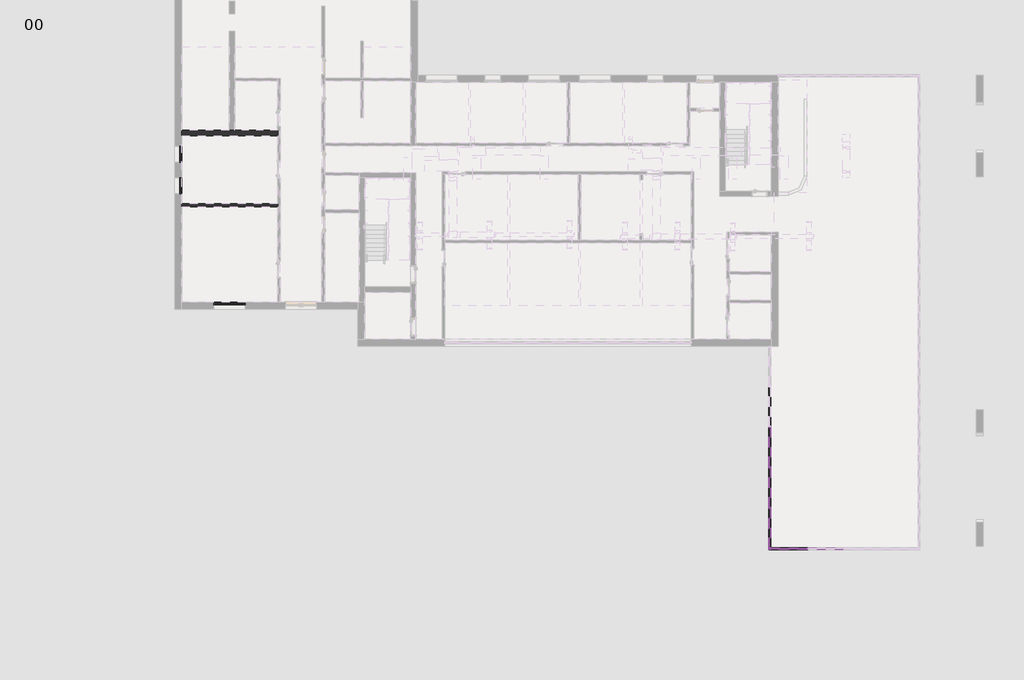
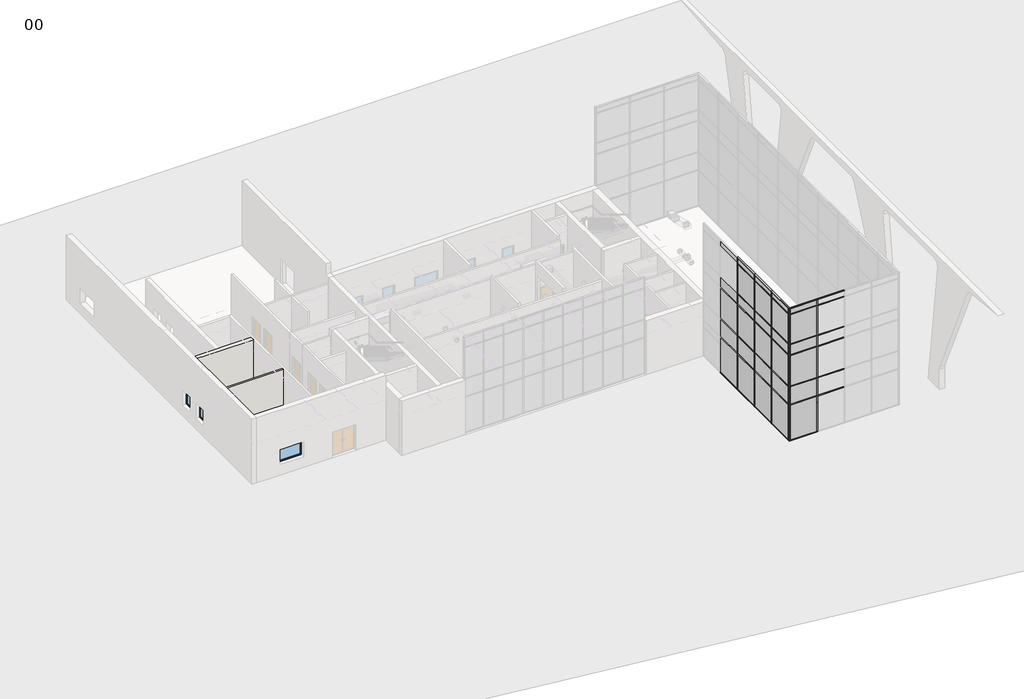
# One storey, part 1 of 12: 77 members, 29 plates, 3 windows, 2 walls.
"""IFC4 building model written with IfcOpenShell, lengths in millimetres."""

from ifc_helpers import new_model, si_unit, origin, origin_with_axes, place, context, project, spatial, polyline, outline, extrude, faceted_brep, transform, mapped, element, save
from components import rectangular_mullion_curtainwallmullion_rectangular_generic_8ae0e668, rectangular_mullion_curtainwallmullion_rectangular_generic_15c16c91, rectangular_mullion_curtainwallmullion_rectangular_generic_08fbcc14, rectangular_mullion_curtainwallmullion_rectangular_generic_83e55909, rectangular_mullion_curtainwallmullion_rectangular_generic_d5294c93, rectangular_mullion_curtainwallmullion_rectangular_generic_779ca808, rectangular_mullion_curtainwallmullion_rectangular_generic_5675a122, rectangular_mullion_curtainwallmullion_rectangular_generic_397fb318, rectangular_mullion_curtainwallmullion_rectangular_generic_f1446028, rectangular_mullion_curtainwallmullion_rectangular_generic_0700f4c6, rectangular_mullion_curtainwallmullion_rectangular_generic_cb270087, rectangular_mullion_curtainwallmullion_rectangular_generic_974284e1, rectangular_mullion_curtainwallmullion_rectangular_generic_25199054, rectangular_mullion_curtainwallmullion_rectangular_generic_3fcc00f2, rectangular_mullion_curtainwallmullion_rectangular_generic_766165b3, rectangular_mullion_curtainwallmullion_rectangular_generic_b870b509, rectangular_mullion_curtainwallmullion_rectangular_generic_654ac675, rectangular_mullion_curtainwallmullion_rectangular_generic_e7c47ca9, rectangular_mullion_curtainwallmullion_rectangular_generic_c0600e94, rectangular_mullion_curtainwallmullion_rectangular_generic_3bdb59d8, rectangular_mullion_curtainwallmullion_rectangular_generic_aa8766cf, rectangular_mullion_curtainwallmullion_rectangular_generic_a50df724, rectangular_mullion_curtainwallmullion_rectangular_generic_c640f651, rectangular_mullion_curtainwallmullion_rectangular_generic_afb0b622, rectangular_mullion_curtainwallmullion_rectangular_generic_b2d53351, rectangular_mullion_curtainwallmullion_rectangular_generic_d47b8a9d, system_panel_curtainpanel_glazed_9120b6e5, system_panel_curtainpanel_glazed_c42a0534, system_panel_curtainpanel_glazed_a0842033, system_panel_curtainpanel_glazed_19b159b3, system_panel_curtainpanel_glazed_8eb9798f, system_panel_curtainpanel_glazed_c6a84083, system_panel_curtainpanel_solid_62146879, system_panel_curtainpanel_solid_bd7018df, system_panel_curtainpanel_solid_ebe6707a, system_panel_curtainpanel_solid_ff987cd1, system_panel_curtainpanel_solid_09149663, system_panel_curtainpanel_solid_f2f4bc37, windows_concept_plain_sgl_1810x1210mm_7f7241d7, windows_concept_plain_sgl_910x1210mm_ef0b7ad2

model = new_model("IFC4")

# Units and contexts
model_context = context("Model", 3, world=origin())
ifc_project = project(units=[si_unit("LENGTHUNIT", "METRE", prefix="MILLI")], contexts=[model_context])

# Site, building, storey
site = spatial("IfcSite", under=ifc_project)
building = spatial("IfcBuilding", under=site)
storey = spatial("IfcBuildingStorey", under=building, Name="00", Elevation=0.0)

# Members
placement = place(None, origin())
rectangular_mullion_curtainwallmullion_rectangular_generic_shape = rectangular_mullion_curtainwallmullion_rectangular_generic_8ae0e668(model_context)
element("IfcMember", 1, ObjectType="Rectangular Mullion : CurtainWallMullion_Rectangular_Generic", at=placement, inside=storey, context=model_context, shape_type="MappedRepresentation", body=[
    mapped(rectangular_mullion_curtainwallmullion_rectangular_generic_shape, transform((445668.3206883, -406013.8026384, 10486.7), x_axis=(0.0, 1.0, 0.0), y_axis=(1.0, 0.0, 0.0), z_axis=(0.0, 0.0, -1.0))),
])
element("IfcMember", 2, ObjectType="Rectangular Mullion : CurtainWallMullion_Rectangular_Generic", at=placement, inside=storey, context=model_context, shape_type="MappedRepresentation", body=[
    mapped(rectangular_mullion_curtainwallmullion_rectangular_generic_shape, transform((445668.3206883, -403686.6026385, 10486.7), x_axis=(0.0, 1.0, 0.0), y_axis=(1.0, 0.0, 0.0), z_axis=(0.0, 0.0, -1.0))),
])
element("IfcMember", 3, ObjectType="Rectangular Mullion : CurtainWallMullion_Rectangular_Generic", at=placement, inside=storey, context=model_context, shape_type="MappedRepresentation", body=[
    mapped(rectangular_mullion_curtainwallmullion_rectangular_generic_shape, transform((445668.3206883, -401359.4026387, 10486.7), x_axis=(0.0, 1.0, 0.0), y_axis=(1.0, 0.0, 0.0), z_axis=(0.0, 0.0, -1.0))),
])
element("IfcMember", 4, ObjectType="Rectangular Mullion : CurtainWallMullion_Rectangular_Generic", at=placement, inside=storey, context=model_context, shape_type="MappedRepresentation", body=[
    mapped(rectangular_mullion_curtainwallmullion_rectangular_generic_shape, transform((447825.3206885, -408366.0026386, 10486.7), x_axis=(-1.0, 0.0, 0.0), y_axis=(0.0, 1.0, 0.0), z_axis=(0.0, 0.0, -1.0))),
])
rectangular_mullion_curtainwallmullion_rectangular_generic_2_shape = rectangular_mullion_curtainwallmullion_rectangular_generic_15c16c91(model_context)
element("IfcMember", 5, ObjectType="Rectangular Mullion : CurtainWallMullion_Rectangular_Generic", at=placement, inside=storey, context=model_context, shape_type="MappedRepresentation", body=[
    mapped(rectangular_mullion_curtainwallmullion_rectangular_generic_2_shape, transform((445668.3206883, -408366.0026386, 10486.7), x_axis=(-1.0, 0.0, 0.0), y_axis=(0.0, 1.0, 0.0), z_axis=(0.0, 0.0, -1.0))),
])
element("IfcMember", 6, ObjectType="Rectangular Mullion : CurtainWallMullion_Rectangular_Generic", at=placement, inside=storey, context=model_context, shape_type="MappedRepresentation", body=[
    mapped(rectangular_mullion_curtainwallmullion_rectangular_generic_2_shape, transform((445668.3206883, -408366.0026386, 10950.0), x_axis=(0.0, -1.0, 0.0), y_axis=(1.0, 0.0, 0.0), z_axis=(0.0, 0.0, 1.0))),
])
rectangular_mullion_curtainwallmullion_rectangular_generic_3_shape = rectangular_mullion_curtainwallmullion_rectangular_generic_08fbcc14(model_context)
element("IfcMember", 7, ObjectType="Rectangular Mullion : CurtainWallMullion_Rectangular_Generic", at=placement, inside=storey, context=model_context, shape_type="MappedRepresentation", body=[
    mapped(rectangular_mullion_curtainwallmullion_rectangular_generic_3_shape, transform((445668.3206883, -406013.8026384, 8000.0), x_axis=(0.0, 1.0, 0.0), y_axis=(1.0, 0.0, 0.0), z_axis=(0.0, 0.0, -1.0))),
])
element("IfcMember", 8, ObjectType="Rectangular Mullion : CurtainWallMullion_Rectangular_Generic", at=placement, inside=storey, context=model_context, shape_type="MappedRepresentation", body=[
    mapped(rectangular_mullion_curtainwallmullion_rectangular_generic_3_shape, transform((445668.3206883, -403686.6026385, 8000.0), x_axis=(0.0, 1.0, 0.0), y_axis=(1.0, 0.0, 0.0), z_axis=(0.0, 0.0, -1.0))),
])
element("IfcMember", 9, ObjectType="Rectangular Mullion : CurtainWallMullion_Rectangular_Generic", at=placement, inside=storey, context=model_context, shape_type="MappedRepresentation", body=[
    mapped(rectangular_mullion_curtainwallmullion_rectangular_generic_3_shape, transform((445668.3206883, -401359.4026387, 8000.0), x_axis=(0.0, 1.0, 0.0), y_axis=(1.0, 0.0, 0.0), z_axis=(0.0, 0.0, -1.0))),
])
element("IfcMember", 10, ObjectType="Rectangular Mullion : CurtainWallMullion_Rectangular_Generic", at=placement, inside=storey, context=model_context, shape_type="MappedRepresentation", body=[
    mapped(rectangular_mullion_curtainwallmullion_rectangular_generic_3_shape, transform((447825.3206885, -408366.0026386, 8000.0), x_axis=(-1.0, 0.0, 0.0), y_axis=(0.0, 1.0, 0.0), z_axis=(0.0, 0.0, -1.0))),
])
rectangular_mullion_curtainwallmullion_rectangular_generic_4_shape = rectangular_mullion_curtainwallmullion_rectangular_generic_83e55909(model_context)
element("IfcMember", 11, ObjectType="Rectangular Mullion : CurtainWallMullion_Rectangular_Generic", at=placement, inside=storey, context=model_context, shape_type="MappedRepresentation", body=[
    mapped(rectangular_mullion_curtainwallmullion_rectangular_generic_4_shape, transform((445668.3206883, -408366.0026386, 10486.7), x_axis=(0.0, -1.0, 0.0), y_axis=(1.0, 0.0, 0.0), z_axis=(0.0, 0.0, 1.0))),
])
element("IfcMember", 12, ObjectType="Rectangular Mullion : CurtainWallMullion_Rectangular_Generic", at=placement, inside=storey, context=model_context, shape_type="MappedRepresentation", body=[
    mapped(rectangular_mullion_curtainwallmullion_rectangular_generic_4_shape, transform((445668.3206883, -408366.0026386, 8000.0), x_axis=(-1.0, 0.0, 0.0), y_axis=(0.0, 1.0, 0.0), z_axis=(0.0, 0.0, -1.0))),
])
rectangular_mullion_curtainwallmullion_rectangular_generic_5_shape = rectangular_mullion_curtainwallmullion_rectangular_generic_d5294c93(model_context)
element("IfcMember", 13, ObjectType="Rectangular Mullion : CurtainWallMullion_Rectangular_Generic", at=placement, inside=storey, context=model_context, shape_type="MappedRepresentation", body=[
    mapped(rectangular_mullion_curtainwallmullion_rectangular_generic_5_shape, transform((447825.3206885, -408366.0026386, 50.0), x_axis=(-1.0, 0.0, 0.0), y_axis=(0.0, 1.0, 0.0), z_axis=(0.0, 0.0, -1.0))),
])
rectangular_mullion_curtainwallmullion_rectangular_generic_6_shape = rectangular_mullion_curtainwallmullion_rectangular_generic_779ca808(model_context)
element("IfcMember", 14, ObjectType="Rectangular Mullion : CurtainWallMullion_Rectangular_Generic", at=placement, inside=storey, context=model_context, shape_type="MappedRepresentation", body=[
    mapped(rectangular_mullion_curtainwallmullion_rectangular_generic_6_shape, transform((445668.3206883, -408366.0026386, 50.0), x_axis=(-1.0, 0.0, 0.0), y_axis=(0.0, 1.0, 0.0), z_axis=(0.0, 0.0, -1.0))),
])
rectangular_mullion_curtainwallmullion_rectangular_generic_7_shape = rectangular_mullion_curtainwallmullion_rectangular_generic_5675a122(model_context)
element("IfcMember", 15, ObjectType="Rectangular Mullion : CurtainWallMullion_Rectangular_Generic", at=placement, inside=storey, context=model_context, shape_type="MappedRepresentation", body=[
    mapped(rectangular_mullion_curtainwallmullion_rectangular_generic_7_shape, transform((445668.3206883, -406013.8026384, 50.0), x_axis=(0.0, 1.0, 0.0), y_axis=(1.0, 0.0, 0.0), z_axis=(0.0, 0.0, -1.0))),
])
element("IfcMember", 16, ObjectType="Rectangular Mullion : CurtainWallMullion_Rectangular_Generic", at=placement, inside=storey, context=model_context, shape_type="MappedRepresentation", body=[
    mapped(rectangular_mullion_curtainwallmullion_rectangular_generic_7_shape, transform((445668.3206883, -403686.6026385, 50.0), x_axis=(0.0, 1.0, 0.0), y_axis=(1.0, 0.0, 0.0), z_axis=(0.0, 0.0, -1.0))),
])
element("IfcMember", 17, ObjectType="Rectangular Mullion : CurtainWallMullion_Rectangular_Generic", at=placement, inside=storey, context=model_context, shape_type="MappedRepresentation", body=[
    mapped(rectangular_mullion_curtainwallmullion_rectangular_generic_7_shape, transform((445668.3206883, -401359.4026387, 50.0), x_axis=(0.0, 1.0, 0.0), y_axis=(1.0, 0.0, 0.0), z_axis=(0.0, 0.0, -1.0))),
])
rectangular_mullion_curtainwallmullion_rectangular_generic_8_shape = rectangular_mullion_curtainwallmullion_rectangular_generic_397fb318(model_context)
element("IfcMember", 18, ObjectType="Rectangular Mullion : CurtainWallMullion_Rectangular_Generic", at=placement, inside=storey, context=model_context, shape_type="MappedRepresentation", body=[
    mapped(rectangular_mullion_curtainwallmullion_rectangular_generic_8_shape, transform((445668.3206883, -408366.0026386, 2425.0), x_axis=(0.0, -1.0, 0.0), y_axis=(1.0, 0.0, 0.0), z_axis=(0.0, 0.0, 1.0))),
])
rectangular_mullion_curtainwallmullion_rectangular_generic_9_shape = rectangular_mullion_curtainwallmullion_rectangular_generic_f1446028(model_context)
element("IfcMember", 19, ObjectType="Rectangular Mullion : CurtainWallMullion_Rectangular_Generic", at=placement, inside=storey, context=model_context, shape_type="MappedRepresentation", body=[
    mapped(rectangular_mullion_curtainwallmullion_rectangular_generic_9_shape, transform((445668.3206883, -408366.0026386, 11000.0), x_axis=(0.0, 0.0, 1.0), y_axis=(0.0, 1.0, 0.0), z_axis=(-1.0, 0.0, 0.0))),
])
rectangular_mullion_curtainwallmullion_rectangular_generic_10_shape = rectangular_mullion_curtainwallmullion_rectangular_generic_0700f4c6(model_context)
element("IfcMember", 20, ObjectType="Rectangular Mullion : CurtainWallMullion_Rectangular_Generic", at=placement, inside=storey, context=model_context, shape_type="MappedRepresentation", body=[
    mapped(rectangular_mullion_curtainwallmullion_rectangular_generic_10_shape, transform((445668.3206883, -406013.8026384, 11000.0), x_axis=(0.0, 0.0, 1.0), y_axis=(1.0, 0.0, 0.0), z_axis=(0.0, 1.0, 0.0))),
])
rectangular_mullion_curtainwallmullion_rectangular_generic_11_shape = rectangular_mullion_curtainwallmullion_rectangular_generic_cb270087(model_context)
element("IfcMember", 21, ObjectType="Rectangular Mullion : CurtainWallMullion_Rectangular_Generic", at=placement, inside=storey, context=model_context, shape_type="MappedRepresentation", body=[
    mapped(rectangular_mullion_curtainwallmullion_rectangular_generic_11_shape, transform((447825.3206885, -408366.0026386, 11000.0), x_axis=(0.0, 0.0, 1.0), y_axis=(0.0, 1.0, 0.0), z_axis=(-1.0, 0.0, 0.0))),
])
rectangular_mullion_curtainwallmullion_rectangular_generic_12_shape = rectangular_mullion_curtainwallmullion_rectangular_generic_974284e1(model_context)
element("IfcMember", 22, ObjectType="Rectangular Mullion : CurtainWallMullion_Rectangular_Generic", at=placement, inside=storey, context=model_context, shape_type="MappedRepresentation", body=[
    mapped(rectangular_mullion_curtainwallmullion_rectangular_generic_12_shape, transform((447850.3206885, -408366.0026386, 4500.0), x_axis=(0.0, 0.0, 1.0), y_axis=(0.0, 1.0, 0.0), z_axis=(-1.0, 0.0, 0.0))),
])
element("IfcMember", 23, ObjectType="Rectangular Mullion : CurtainWallMullion_Rectangular_Generic", at=placement, inside=storey, context=model_context, shape_type="MappedRepresentation", body=[
    mapped(rectangular_mullion_curtainwallmullion_rectangular_generic_12_shape, transform((447850.3206885, -408366.0026386, 7100.0), x_axis=(0.0, 0.0, 1.0), y_axis=(0.0, 1.0, 0.0), z_axis=(-1.0, 0.0, 0.0))),
])
element("IfcMember", 24, ObjectType="Rectangular Mullion : CurtainWallMullion_Rectangular_Generic", at=placement, inside=storey, context=model_context, shape_type="MappedRepresentation", body=[
    mapped(rectangular_mullion_curtainwallmullion_rectangular_generic_12_shape, transform((447850.3206885, -408366.0026386, 10486.7), x_axis=(0.0, 0.0, 1.0), y_axis=(0.0, 1.0, 0.0), z_axis=(-1.0, 0.0, 0.0))),
])
element("IfcMember", 25, ObjectType="Rectangular Mullion : CurtainWallMullion_Rectangular_Generic", at=placement, inside=storey, context=model_context, shape_type="MappedRepresentation", body=[
    mapped(rectangular_mullion_curtainwallmullion_rectangular_generic_12_shape, transform((447850.3206885, -408366.0026386, 3000.0), x_axis=(0.0, 0.0, 1.0), y_axis=(0.0, 1.0, 0.0), z_axis=(-1.0, 0.0, 0.0))),
])
element("IfcMember", 26, ObjectType="Rectangular Mullion : CurtainWallMullion_Rectangular_Generic", at=placement, inside=storey, context=model_context, shape_type="MappedRepresentation", body=[
    mapped(rectangular_mullion_curtainwallmullion_rectangular_generic_12_shape, transform((447850.3206885, -408366.0026386, 8000.0), x_axis=(0.0, 0.0, 1.0), y_axis=(0.0, 1.0, 0.0), z_axis=(-1.0, 0.0, 0.0))),
])
element("IfcMember", 27, ObjectType="Rectangular Mullion : CurtainWallMullion_Rectangular_Generic", at=placement, inside=storey, context=model_context, shape_type="MappedRepresentation", body=[
    mapped(rectangular_mullion_curtainwallmullion_rectangular_generic_12_shape, transform((445718.3206883, -408366.0026386, 4500.0), x_axis=(0.0, 0.0, 1.0), y_axis=(0.0, 1.0, 0.0), z_axis=(-1.0, 0.0, 0.0))),
])
element("IfcMember", 28, ObjectType="Rectangular Mullion : CurtainWallMullion_Rectangular_Generic", at=placement, inside=storey, context=model_context, shape_type="MappedRepresentation", body=[
    mapped(rectangular_mullion_curtainwallmullion_rectangular_generic_12_shape, transform((445718.3206883, -408366.0026386, 7100.0), x_axis=(0.0, 0.0, 1.0), y_axis=(0.0, 1.0, 0.0), z_axis=(-1.0, 0.0, 0.0))),
])
element("IfcMember", 29, ObjectType="Rectangular Mullion : CurtainWallMullion_Rectangular_Generic", at=placement, inside=storey, context=model_context, shape_type="MappedRepresentation", body=[
    mapped(rectangular_mullion_curtainwallmullion_rectangular_generic_12_shape, transform((445718.3206883, -408366.0026386, 10486.7), x_axis=(0.0, 0.0, 1.0), y_axis=(0.0, 1.0, 0.0), z_axis=(-1.0, 0.0, 0.0))),
])
element("IfcMember", 30, ObjectType="Rectangular Mullion : CurtainWallMullion_Rectangular_Generic", at=placement, inside=storey, context=model_context, shape_type="MappedRepresentation", body=[
    mapped(rectangular_mullion_curtainwallmullion_rectangular_generic_12_shape, transform((445718.3206883, -408366.0026386, 3000.0), x_axis=(0.0, 0.0, 1.0), y_axis=(0.0, 1.0, 0.0), z_axis=(-1.0, 0.0, 0.0))),
])
element("IfcMember", 31, ObjectType="Rectangular Mullion : CurtainWallMullion_Rectangular_Generic", at=placement, inside=storey, context=model_context, shape_type="MappedRepresentation", body=[
    mapped(rectangular_mullion_curtainwallmullion_rectangular_generic_12_shape, transform((445718.3206883, -408366.0026386, 8000.0), x_axis=(0.0, 0.0, 1.0), y_axis=(0.0, 1.0, 0.0), z_axis=(-1.0, 0.0, 0.0))),
])
rectangular_mullion_curtainwallmullion_rectangular_generic_13_shape = rectangular_mullion_curtainwallmullion_rectangular_generic_25199054(model_context)
element("IfcMember", 32, ObjectType="Rectangular Mullion : CurtainWallMullion_Rectangular_Generic", at=placement, inside=storey, context=model_context, shape_type="MappedRepresentation", body=[
    mapped(rectangular_mullion_curtainwallmullion_rectangular_generic_13_shape, transform((447825.3206885, -408366.0026386, 0.0), x_axis=(0.0, 0.0, -1.0), y_axis=(0.0, 1.0, 0.0), z_axis=(1.0, 0.0, 0.0))),
])
rectangular_mullion_curtainwallmullion_rectangular_generic_14_shape = rectangular_mullion_curtainwallmullion_rectangular_generic_3fcc00f2(model_context)
element("IfcMember", 33, ObjectType="Rectangular Mullion : CurtainWallMullion_Rectangular_Generic", at=placement, inside=storey, context=model_context, shape_type="MappedRepresentation", body=[
    mapped(rectangular_mullion_curtainwallmullion_rectangular_generic_14_shape, transform((445668.3206883, -408366.0026386, 0.0), x_axis=(0.0, 0.0, -1.0), y_axis=(1.0, 0.0, 0.0), z_axis=(0.0, -1.0, 0.0))),
])
rectangular_mullion_curtainwallmullion_rectangular_generic_15_shape = rectangular_mullion_curtainwallmullion_rectangular_generic_766165b3(model_context)
element("IfcMember", 34, ObjectType="Rectangular Mullion : CurtainWallMullion_Rectangular_Generic", at=placement, inside=storey, context=model_context, shape_type="MappedRepresentation", body=[
    mapped(rectangular_mullion_curtainwallmullion_rectangular_generic_15_shape, transform((445668.3206883, -403686.6026385, 11000.0), x_axis=(0.0, 0.0, 1.0), y_axis=(1.0, 0.0, 0.0), z_axis=(0.0, 1.0, 0.0))),
])
element("IfcMember", 35, ObjectType="Rectangular Mullion : CurtainWallMullion_Rectangular_Generic", at=placement, inside=storey, context=model_context, shape_type="MappedRepresentation", body=[
    mapped(rectangular_mullion_curtainwallmullion_rectangular_generic_15_shape, transform((445668.3206883, -401359.4026387, 11000.0), x_axis=(0.0, 0.0, 1.0), y_axis=(1.0, 0.0, 0.0), z_axis=(0.0, 1.0, 0.0))),
])
element("IfcMember", 36, ObjectType="Rectangular Mullion : CurtainWallMullion_Rectangular_Generic", at=placement, inside=storey, context=model_context, shape_type="MappedRepresentation", body=[
    mapped(rectangular_mullion_curtainwallmullion_rectangular_generic_15_shape, transform((445668.3206883, -406013.8026384, 0.0), x_axis=(0.0, 0.0, -1.0), y_axis=(1.0, 0.0, 0.0), z_axis=(0.0, -1.0, 0.0))),
])
element("IfcMember", 37, ObjectType="Rectangular Mullion : CurtainWallMullion_Rectangular_Generic", at=placement, inside=storey, context=model_context, shape_type="MappedRepresentation", body=[
    mapped(rectangular_mullion_curtainwallmullion_rectangular_generic_15_shape, transform((445668.3206883, -403686.6026385, 0.0), x_axis=(0.0, 0.0, -1.0), y_axis=(1.0, 0.0, 0.0), z_axis=(0.0, -1.0, 0.0))),
])
element("IfcMember", 38, ObjectType="Rectangular Mullion : CurtainWallMullion_Rectangular_Generic", at=placement, inside=storey, context=model_context, shape_type="MappedRepresentation", body=[
    mapped(rectangular_mullion_curtainwallmullion_rectangular_generic_15_shape, transform((445668.3206883, -401359.4026387, 0.0), x_axis=(0.0, 0.0, -1.0), y_axis=(1.0, 0.0, 0.0), z_axis=(0.0, -1.0, 0.0))),
])
rectangular_mullion_curtainwallmullion_rectangular_generic_16_shape = rectangular_mullion_curtainwallmullion_rectangular_generic_b870b509(model_context)
element("IfcMember", 39, ObjectType="Rectangular Mullion : CurtainWallMullion_Rectangular_Generic", at=placement, inside=storey, context=model_context, shape_type="MappedRepresentation", body=[
    mapped(rectangular_mullion_curtainwallmullion_rectangular_generic_16_shape, transform((445668.3206883, -406038.8026384, 4500.0), x_axis=(0.0, 0.0, 1.0), y_axis=(1.0, 0.0, 0.0), z_axis=(0.0, 1.0, 0.0))),
])
element("IfcMember", 40, ObjectType="Rectangular Mullion : CurtainWallMullion_Rectangular_Generic", at=placement, inside=storey, context=model_context, shape_type="MappedRepresentation", body=[
    mapped(rectangular_mullion_curtainwallmullion_rectangular_generic_16_shape, transform((445668.3206883, -403711.6026385, 4500.0), x_axis=(0.0, 0.0, 1.0), y_axis=(1.0, 0.0, 0.0), z_axis=(0.0, 1.0, 0.0))),
])
element("IfcMember", 41, ObjectType="Rectangular Mullion : CurtainWallMullion_Rectangular_Generic", at=placement, inside=storey, context=model_context, shape_type="MappedRepresentation", body=[
    mapped(rectangular_mullion_curtainwallmullion_rectangular_generic_16_shape, transform((445668.3206883, -401384.4026387, 4500.0), x_axis=(0.0, 0.0, 1.0), y_axis=(1.0, 0.0, 0.0), z_axis=(0.0, 1.0, 0.0))),
])
element("IfcMember", 42, ObjectType="Rectangular Mullion : CurtainWallMullion_Rectangular_Generic", at=placement, inside=storey, context=model_context, shape_type="MappedRepresentation", body=[
    mapped(rectangular_mullion_curtainwallmullion_rectangular_generic_16_shape, transform((445668.3206883, -406038.8026384, 7100.0), x_axis=(0.0, 0.0, 1.0), y_axis=(1.0, 0.0, 0.0), z_axis=(0.0, 1.0, 0.0))),
])
element("IfcMember", 43, ObjectType="Rectangular Mullion : CurtainWallMullion_Rectangular_Generic", at=placement, inside=storey, context=model_context, shape_type="MappedRepresentation", body=[
    mapped(rectangular_mullion_curtainwallmullion_rectangular_generic_16_shape, transform((445668.3206883, -403711.6026385, 7100.0), x_axis=(0.0, 0.0, 1.0), y_axis=(1.0, 0.0, 0.0), z_axis=(0.0, 1.0, 0.0))),
])
element("IfcMember", 44, ObjectType="Rectangular Mullion : CurtainWallMullion_Rectangular_Generic", at=placement, inside=storey, context=model_context, shape_type="MappedRepresentation", body=[
    mapped(rectangular_mullion_curtainwallmullion_rectangular_generic_16_shape, transform((445668.3206883, -401384.4026387, 7100.0), x_axis=(0.0, 0.0, 1.0), y_axis=(1.0, 0.0, 0.0), z_axis=(0.0, 1.0, 0.0))),
])
element("IfcMember", 45, ObjectType="Rectangular Mullion : CurtainWallMullion_Rectangular_Generic", at=placement, inside=storey, context=model_context, shape_type="MappedRepresentation", body=[
    mapped(rectangular_mullion_curtainwallmullion_rectangular_generic_16_shape, transform((445668.3206883, -406038.8026384, 10486.7), x_axis=(0.0, 0.0, 1.0), y_axis=(1.0, 0.0, 0.0), z_axis=(0.0, 1.0, 0.0))),
])
element("IfcMember", 46, ObjectType="Rectangular Mullion : CurtainWallMullion_Rectangular_Generic", at=placement, inside=storey, context=model_context, shape_type="MappedRepresentation", body=[
    mapped(rectangular_mullion_curtainwallmullion_rectangular_generic_16_shape, transform((445668.3206883, -403711.6026385, 10486.7), x_axis=(0.0, 0.0, 1.0), y_axis=(1.0, 0.0, 0.0), z_axis=(0.0, 1.0, 0.0))),
])
element("IfcMember", 47, ObjectType="Rectangular Mullion : CurtainWallMullion_Rectangular_Generic", at=placement, inside=storey, context=model_context, shape_type="MappedRepresentation", body=[
    mapped(rectangular_mullion_curtainwallmullion_rectangular_generic_16_shape, transform((445668.3206883, -401384.4026387, 10486.7), x_axis=(0.0, 0.0, 1.0), y_axis=(1.0, 0.0, 0.0), z_axis=(0.0, 1.0, 0.0))),
])
element("IfcMember", 48, ObjectType="Rectangular Mullion : CurtainWallMullion_Rectangular_Generic", at=placement, inside=storey, context=model_context, shape_type="MappedRepresentation", body=[
    mapped(rectangular_mullion_curtainwallmullion_rectangular_generic_16_shape, transform((445668.3206883, -406038.8026384, 3000.0), x_axis=(0.0, 0.0, 1.0), y_axis=(1.0, 0.0, 0.0), z_axis=(0.0, 1.0, 0.0))),
])
element("IfcMember", 49, ObjectType="Rectangular Mullion : CurtainWallMullion_Rectangular_Generic", at=placement, inside=storey, context=model_context, shape_type="MappedRepresentation", body=[
    mapped(rectangular_mullion_curtainwallmullion_rectangular_generic_16_shape, transform((445668.3206883, -403711.6026385, 3000.0), x_axis=(0.0, 0.0, 1.0), y_axis=(1.0, 0.0, 0.0), z_axis=(0.0, 1.0, 0.0))),
])
element("IfcMember", 50, ObjectType="Rectangular Mullion : CurtainWallMullion_Rectangular_Generic", at=placement, inside=storey, context=model_context, shape_type="MappedRepresentation", body=[
    mapped(rectangular_mullion_curtainwallmullion_rectangular_generic_16_shape, transform((445668.3206883, -401384.4026387, 3000.0), x_axis=(0.0, 0.0, 1.0), y_axis=(1.0, 0.0, 0.0), z_axis=(0.0, 1.0, 0.0))),
])
element("IfcMember", 51, ObjectType="Rectangular Mullion : CurtainWallMullion_Rectangular_Generic", at=placement, inside=storey, context=model_context, shape_type="MappedRepresentation", body=[
    mapped(rectangular_mullion_curtainwallmullion_rectangular_generic_16_shape, transform((445668.3206883, -406038.8026384, 8000.0), x_axis=(0.0, 0.0, 1.0), y_axis=(1.0, 0.0, 0.0), z_axis=(0.0, 1.0, 0.0))),
])
element("IfcMember", 52, ObjectType="Rectangular Mullion : CurtainWallMullion_Rectangular_Generic", at=placement, inside=storey, context=model_context, shape_type="MappedRepresentation", body=[
    mapped(rectangular_mullion_curtainwallmullion_rectangular_generic_16_shape, transform((445668.3206883, -403711.6026385, 8000.0), x_axis=(0.0, 0.0, 1.0), y_axis=(1.0, 0.0, 0.0), z_axis=(0.0, 1.0, 0.0))),
])
element("IfcMember", 53, ObjectType="Rectangular Mullion : CurtainWallMullion_Rectangular_Generic", at=placement, inside=storey, context=model_context, shape_type="MappedRepresentation", body=[
    mapped(rectangular_mullion_curtainwallmullion_rectangular_generic_16_shape, transform((445668.3206883, -401384.4026387, 8000.0), x_axis=(0.0, 0.0, 1.0), y_axis=(1.0, 0.0, 0.0), z_axis=(0.0, 1.0, 0.0))),
])
rectangular_mullion_curtainwallmullion_rectangular_generic_17_shape = rectangular_mullion_curtainwallmullion_rectangular_generic_654ac675(model_context)
element("IfcMember", 54, ObjectType="Rectangular Mullion : CurtainWallMullion_Rectangular_Generic", at=placement, inside=storey, context=model_context, shape_type="MappedRepresentation", body=[
    mapped(rectangular_mullion_curtainwallmullion_rectangular_generic_17_shape, transform((445668.3206883, -406013.8026384, 4500.0), x_axis=(0.0, 1.0, 0.0), y_axis=(1.0, 0.0, 0.0), z_axis=(0.0, 0.0, -1.0))),
])
element("IfcMember", 55, ObjectType="Rectangular Mullion : CurtainWallMullion_Rectangular_Generic", at=placement, inside=storey, context=model_context, shape_type="MappedRepresentation", body=[
    mapped(rectangular_mullion_curtainwallmullion_rectangular_generic_17_shape, transform((445668.3206883, -403686.6026385, 4500.0), x_axis=(0.0, 1.0, 0.0), y_axis=(1.0, 0.0, 0.0), z_axis=(0.0, 0.0, -1.0))),
])
element("IfcMember", 56, ObjectType="Rectangular Mullion : CurtainWallMullion_Rectangular_Generic", at=placement, inside=storey, context=model_context, shape_type="MappedRepresentation", body=[
    mapped(rectangular_mullion_curtainwallmullion_rectangular_generic_17_shape, transform((445668.3206883, -401359.4026387, 4500.0), x_axis=(0.0, 1.0, 0.0), y_axis=(1.0, 0.0, 0.0), z_axis=(0.0, 0.0, -1.0))),
])
element("IfcMember", 57, ObjectType="Rectangular Mullion : CurtainWallMullion_Rectangular_Generic", at=placement, inside=storey, context=model_context, shape_type="MappedRepresentation", body=[
    mapped(rectangular_mullion_curtainwallmullion_rectangular_generic_17_shape, transform((447825.3206885, -408366.0026386, 4500.0), x_axis=(-1.0, 0.0, 0.0), y_axis=(0.0, 1.0, 0.0), z_axis=(0.0, 0.0, -1.0))),
])
rectangular_mullion_curtainwallmullion_rectangular_generic_18_shape = rectangular_mullion_curtainwallmullion_rectangular_generic_e7c47ca9(model_context)
element("IfcMember", 58, ObjectType="Rectangular Mullion : CurtainWallMullion_Rectangular_Generic", at=placement, inside=storey, context=model_context, shape_type="MappedRepresentation", body=[
    mapped(rectangular_mullion_curtainwallmullion_rectangular_generic_18_shape, transform((445668.3206883, -408366.0026386, 4500.0), x_axis=(-1.0, 0.0, 0.0), y_axis=(0.0, 1.0, 0.0), z_axis=(0.0, 0.0, -1.0))),
])
element("IfcMember", 59, ObjectType="Rectangular Mullion : CurtainWallMullion_Rectangular_Generic", at=placement, inside=storey, context=model_context, shape_type="MappedRepresentation", body=[
    mapped(rectangular_mullion_curtainwallmullion_rectangular_generic_18_shape, transform((445668.3206883, -408366.0026386, 7100.0), x_axis=(0.0, -1.0, 0.0), y_axis=(1.0, 0.0, 0.0), z_axis=(0.0, 0.0, 1.0))),
])
rectangular_mullion_curtainwallmullion_rectangular_generic_19_shape = rectangular_mullion_curtainwallmullion_rectangular_generic_c0600e94(model_context)
element("IfcMember", 60, ObjectType="Rectangular Mullion : CurtainWallMullion_Rectangular_Generic", at=placement, inside=storey, context=model_context, shape_type="MappedRepresentation", body=[
    mapped(rectangular_mullion_curtainwallmullion_rectangular_generic_19_shape, transform((445668.3206883, -406013.8026384, 3000.0), x_axis=(0.0, 1.0, 0.0), y_axis=(1.0, 0.0, 0.0), z_axis=(0.0, 0.0, -1.0))),
])
element("IfcMember", 61, ObjectType="Rectangular Mullion : CurtainWallMullion_Rectangular_Generic", at=placement, inside=storey, context=model_context, shape_type="MappedRepresentation", body=[
    mapped(rectangular_mullion_curtainwallmullion_rectangular_generic_19_shape, transform((445668.3206883, -403686.6026385, 3000.0), x_axis=(0.0, 1.0, 0.0), y_axis=(1.0, 0.0, 0.0), z_axis=(0.0, 0.0, -1.0))),
])
element("IfcMember", 62, ObjectType="Rectangular Mullion : CurtainWallMullion_Rectangular_Generic", at=placement, inside=storey, context=model_context, shape_type="MappedRepresentation", body=[
    mapped(rectangular_mullion_curtainwallmullion_rectangular_generic_19_shape, transform((445668.3206883, -401359.4026387, 3000.0), x_axis=(0.0, 1.0, 0.0), y_axis=(1.0, 0.0, 0.0), z_axis=(0.0, 0.0, -1.0))),
])
element("IfcMember", 63, ObjectType="Rectangular Mullion : CurtainWallMullion_Rectangular_Generic", at=placement, inside=storey, context=model_context, shape_type="MappedRepresentation", body=[
    mapped(rectangular_mullion_curtainwallmullion_rectangular_generic_19_shape, transform((447825.3206885, -408366.0026386, 3000.0), x_axis=(-1.0, 0.0, 0.0), y_axis=(0.0, 1.0, 0.0), z_axis=(0.0, 0.0, -1.0))),
])
rectangular_mullion_curtainwallmullion_rectangular_generic_20_shape = rectangular_mullion_curtainwallmullion_rectangular_generic_3bdb59d8(model_context)
element("IfcMember", 64, ObjectType="Rectangular Mullion : CurtainWallMullion_Rectangular_Generic", at=placement, inside=storey, context=model_context, shape_type="MappedRepresentation", body=[
    mapped(rectangular_mullion_curtainwallmullion_rectangular_generic_20_shape, transform((445668.3206883, -408366.0026386, 3000.0), x_axis=(-1.0, 0.0, 0.0), y_axis=(0.0, 1.0, 0.0), z_axis=(0.0, 0.0, -1.0))),
])
element("IfcMember", 65, ObjectType="Rectangular Mullion : CurtainWallMullion_Rectangular_Generic", at=placement, inside=storey, context=model_context, shape_type="MappedRepresentation", body=[
    mapped(rectangular_mullion_curtainwallmullion_rectangular_generic_20_shape, transform((445668.3206883, -408366.0026386, 4500.0), x_axis=(0.0, -1.0, 0.0), y_axis=(1.0, 0.0, 0.0), z_axis=(0.0, 0.0, 1.0))),
])
rectangular_mullion_curtainwallmullion_rectangular_generic_21_shape = rectangular_mullion_curtainwallmullion_rectangular_generic_aa8766cf(model_context)
element("IfcMember", 66, ObjectType="Rectangular Mullion : CurtainWallMullion_Rectangular_Generic", at=placement, inside=storey, context=model_context, shape_type="MappedRepresentation", body=[
    mapped(rectangular_mullion_curtainwallmullion_rectangular_generic_21_shape, transform((447825.3206885, -408366.0026386, 2450.0), x_axis=(-1.0, 0.0, 0.0), y_axis=(0.0, 1.0, 0.0), z_axis=(0.0, 0.0, -1.0))),
])
rectangular_mullion_curtainwallmullion_rectangular_generic_22_shape = rectangular_mullion_curtainwallmullion_rectangular_generic_a50df724(model_context)
element("IfcMember", 67, ObjectType="Rectangular Mullion : CurtainWallMullion_Rectangular_Generic", at=placement, inside=storey, context=model_context, shape_type="MappedRepresentation", body=[
    mapped(rectangular_mullion_curtainwallmullion_rectangular_generic_22_shape, transform((445668.3206883, -408366.0026386, 2450.0), x_axis=(-1.0, 0.0, 0.0), y_axis=(0.0, 1.0, 0.0), z_axis=(0.0, 0.0, -1.0))),
])
rectangular_mullion_curtainwallmullion_rectangular_generic_23_shape = rectangular_mullion_curtainwallmullion_rectangular_generic_c640f651(model_context)
element("IfcMember", 68, ObjectType="Rectangular Mullion : CurtainWallMullion_Rectangular_Generic", at=placement, inside=storey, context=model_context, shape_type="MappedRepresentation", body=[
    mapped(rectangular_mullion_curtainwallmullion_rectangular_generic_23_shape, transform((445668.3206883, -406013.8026384, 7100.0), x_axis=(0.0, 1.0, 0.0), y_axis=(1.0, 0.0, 0.0), z_axis=(0.0, 0.0, -1.0))),
])
element("IfcMember", 69, ObjectType="Rectangular Mullion : CurtainWallMullion_Rectangular_Generic", at=placement, inside=storey, context=model_context, shape_type="MappedRepresentation", body=[
    mapped(rectangular_mullion_curtainwallmullion_rectangular_generic_23_shape, transform((445668.3206883, -403686.6026385, 7100.0), x_axis=(0.0, 1.0, 0.0), y_axis=(1.0, 0.0, 0.0), z_axis=(0.0, 0.0, -1.0))),
])
element("IfcMember", 70, ObjectType="Rectangular Mullion : CurtainWallMullion_Rectangular_Generic", at=placement, inside=storey, context=model_context, shape_type="MappedRepresentation", body=[
    mapped(rectangular_mullion_curtainwallmullion_rectangular_generic_23_shape, transform((445668.3206883, -401359.4026387, 7100.0), x_axis=(0.0, 1.0, 0.0), y_axis=(1.0, 0.0, 0.0), z_axis=(0.0, 0.0, -1.0))),
])
element("IfcMember", 71, ObjectType="Rectangular Mullion : CurtainWallMullion_Rectangular_Generic", at=placement, inside=storey, context=model_context, shape_type="MappedRepresentation", body=[
    mapped(rectangular_mullion_curtainwallmullion_rectangular_generic_23_shape, transform((447825.3206885, -408366.0026386, 7100.0), x_axis=(-1.0, 0.0, 0.0), y_axis=(0.0, 1.0, 0.0), z_axis=(0.0, 0.0, -1.0))),
])
rectangular_mullion_curtainwallmullion_rectangular_generic_24_shape = rectangular_mullion_curtainwallmullion_rectangular_generic_afb0b622(model_context)
element("IfcMember", 72, ObjectType="Rectangular Mullion : CurtainWallMullion_Rectangular_Generic", at=placement, inside=storey, context=model_context, shape_type="MappedRepresentation", body=[
    mapped(rectangular_mullion_curtainwallmullion_rectangular_generic_24_shape, transform((445668.3206883, -408366.0026386, 7100.0), x_axis=(-1.0, 0.0, 0.0), y_axis=(0.0, 1.0, 0.0), z_axis=(0.0, 0.0, -1.0))),
])
element("IfcMember", 73, ObjectType="Rectangular Mullion : CurtainWallMullion_Rectangular_Generic", at=placement, inside=storey, context=model_context, shape_type="MappedRepresentation", body=[
    mapped(rectangular_mullion_curtainwallmullion_rectangular_generic_24_shape, transform((445668.3206883, -408366.0026386, 8000.0), x_axis=(0.0, -1.0, 0.0), y_axis=(1.0, 0.0, 0.0), z_axis=(0.0, 0.0, 1.0))),
])
rectangular_mullion_curtainwallmullion_rectangular_generic_25_shape = rectangular_mullion_curtainwallmullion_rectangular_generic_b2d53351(model_context)
element("IfcMember", 74, ObjectType="Rectangular Mullion : CurtainWallMullion_Rectangular_Generic", at=placement, inside=storey, context=model_context, shape_type="MappedRepresentation", body=[
    mapped(rectangular_mullion_curtainwallmullion_rectangular_generic_25_shape, transform((445668.3206883, -406013.8026384, 2425.0), x_axis=(0.0, 1.0, 0.0), y_axis=(1.0, 0.0, 0.0), z_axis=(0.0, 0.0, -1.0))),
])
element("IfcMember", 75, ObjectType="Rectangular Mullion : CurtainWallMullion_Rectangular_Generic", at=placement, inside=storey, context=model_context, shape_type="MappedRepresentation", body=[
    mapped(rectangular_mullion_curtainwallmullion_rectangular_generic_25_shape, transform((445668.3206883, -403686.6026385, 2425.0), x_axis=(0.0, 1.0, 0.0), y_axis=(1.0, 0.0, 0.0), z_axis=(0.0, 0.0, -1.0))),
])
element("IfcMember", 76, ObjectType="Rectangular Mullion : CurtainWallMullion_Rectangular_Generic", at=placement, inside=storey, context=model_context, shape_type="MappedRepresentation", body=[
    mapped(rectangular_mullion_curtainwallmullion_rectangular_generic_25_shape, transform((445668.3206883, -401359.4026387, 2425.0), x_axis=(0.0, 1.0, 0.0), y_axis=(1.0, 0.0, 0.0), z_axis=(0.0, 0.0, -1.0))),
])
rectangular_mullion_curtainwallmullion_rectangular_generic_26_shape = rectangular_mullion_curtainwallmullion_rectangular_generic_d47b8a9d(model_context)
element("IfcMember", 77, ObjectType="Rectangular Mullion : CurtainWallMullion_Rectangular_Generic", at=placement, inside=storey, context=model_context, shape_type="MappedRepresentation", body=[
    mapped(rectangular_mullion_curtainwallmullion_rectangular_generic_26_shape, transform((445668.3206883, -408366.0026386, 3000.0), x_axis=(0.0, -1.0, 0.0), y_axis=(1.0, 0.0, 0.0), z_axis=(0.0, 0.0, 1.0))),
])

# Plates
system_panel_curtainpanel_glazed_shape = system_panel_curtainpanel_glazed_9120b6e5(model_context)
element("IfcPlate", 78, ObjectType="System Panel : CurtainPanel_Glazed", at=placement, inside=storey, context=model_context, shape_type="MappedRepresentation", body=[
    mapped(system_panel_curtainpanel_glazed_shape, transform((446759.3206884, -408366.0026386, 8025.0), x_axis=(-1.0, 0.0, 0.0), y_axis=(0.0, -1.0, 0.0), z_axis=(0.0, 0.0, 1.0))),
])
system_panel_curtainpanel_glazed_2_shape = system_panel_curtainpanel_glazed_c42a0534(model_context)
element("IfcPlate", 79, ObjectType="System Panel : CurtainPanel_Glazed", at=placement, inside=storey, context=model_context, shape_type="MappedRepresentation", body=[
    mapped(system_panel_curtainpanel_glazed_2_shape, transform((445668.3206883, -407177.4026385, 8025.0), x_axis=(0.0, 1.0, 0.0), y_axis=(-1.0, 0.0, 0.0), z_axis=(0.0, 0.0, 1.0))),
])
element("IfcPlate", 80, ObjectType="System Panel : CurtainPanel_Glazed", at=placement, inside=storey, context=model_context, shape_type="MappedRepresentation", body=[
    mapped(system_panel_curtainpanel_glazed_2_shape, transform((445668.3206883, -404850.2026385, 8025.0), x_axis=(0.0, 1.0, 0.0), y_axis=(-1.0, 0.0, 0.0), z_axis=(0.0, 0.0, 1.0))),
])
element("IfcPlate", 81, ObjectType="System Panel : CurtainPanel_Glazed", at=placement, inside=storey, context=model_context, shape_type="MappedRepresentation", body=[
    mapped(system_panel_curtainpanel_glazed_2_shape, transform((445668.3206883, -402523.0026386, 8025.0), x_axis=(0.0, 1.0, 0.0), y_axis=(-1.0, 0.0, 0.0), z_axis=(0.0, 0.0, 1.0))),
])
system_panel_curtainpanel_glazed_3_shape = system_panel_curtainpanel_glazed_a0842033(model_context)
element("IfcPlate", 82, ObjectType="System Panel : CurtainPanel_Glazed", at=placement, inside=storey, context=model_context, shape_type="MappedRepresentation", body=[
    mapped(system_panel_curtainpanel_glazed_3_shape, transform((446759.3206884, -408366.0026386, 50.0), x_axis=(-1.0, 0.0, 0.0), y_axis=(0.0, -1.0, 0.0), z_axis=(0.0, 0.0, 1.0))),
])
system_panel_curtainpanel_glazed_4_shape = system_panel_curtainpanel_glazed_19b159b3(model_context)
element("IfcPlate", 83, ObjectType="System Panel : CurtainPanel_Glazed", at=placement, inside=storey, context=model_context, shape_type="MappedRepresentation", body=[
    mapped(system_panel_curtainpanel_glazed_4_shape, transform((446759.3206884, -408366.0026386, 4525.0), x_axis=(-1.0, 0.0, 0.0), y_axis=(0.0, -1.0, 0.0), z_axis=(0.0, 0.0, 1.0))),
])
system_panel_curtainpanel_glazed_5_shape = system_panel_curtainpanel_glazed_8eb9798f(model_context)
element("IfcPlate", 84, ObjectType="System Panel : CurtainPanel_Glazed", at=placement, inside=storey, context=model_context, shape_type="MappedRepresentation", body=[
    mapped(system_panel_curtainpanel_glazed_5_shape, transform((445668.3206883, -407177.4026385, 50.0), x_axis=(0.0, 1.0, 0.0), y_axis=(-1.0, 0.0, 0.0), z_axis=(0.0, 0.0, 1.0))),
])
element("IfcPlate", 85, ObjectType="System Panel : CurtainPanel_Glazed", at=placement, inside=storey, context=model_context, shape_type="MappedRepresentation", body=[
    mapped(system_panel_curtainpanel_glazed_5_shape, transform((445668.3206883, -404850.2026385, 50.0), x_axis=(0.0, 1.0, 0.0), y_axis=(-1.0, 0.0, 0.0), z_axis=(0.0, 0.0, 1.0))),
])
element("IfcPlate", 86, ObjectType="System Panel : CurtainPanel_Glazed", at=placement, inside=storey, context=model_context, shape_type="MappedRepresentation", body=[
    mapped(system_panel_curtainpanel_glazed_5_shape, transform((445668.3206883, -402523.0026386, 50.0), x_axis=(0.0, 1.0, 0.0), y_axis=(-1.0, 0.0, 0.0), z_axis=(0.0, 0.0, 1.0))),
])
element("IfcPlate", 87, ObjectType="System Panel : CurtainPanel_Glazed", at=placement, inside=storey, context=model_context, shape_type="MappedRepresentation", body=[
    mapped(system_panel_curtainpanel_glazed_5_shape, transform((445668.3206883, -400195.8026387, 50.0), x_axis=(0.0, 1.0, 0.0), y_axis=(-1.0, 0.0, 0.0), z_axis=(0.0, 0.0, 1.0))),
])
system_panel_curtainpanel_glazed_6_shape = system_panel_curtainpanel_glazed_c6a84083(model_context)
element("IfcPlate", 88, ObjectType="System Panel : CurtainPanel_Glazed", at=placement, inside=storey, context=model_context, shape_type="MappedRepresentation", body=[
    mapped(system_panel_curtainpanel_glazed_6_shape, transform((445668.3206883, -407177.4026385, 4525.0), x_axis=(0.0, 1.0, 0.0), y_axis=(-1.0, 0.0, 0.0), z_axis=(0.0, 0.0, 1.0))),
])
element("IfcPlate", 89, ObjectType="System Panel : CurtainPanel_Glazed", at=placement, inside=storey, context=model_context, shape_type="MappedRepresentation", body=[
    mapped(system_panel_curtainpanel_glazed_6_shape, transform((445668.3206883, -404850.2026385, 4525.0), x_axis=(0.0, 1.0, 0.0), y_axis=(-1.0, 0.0, 0.0), z_axis=(0.0, 0.0, 1.0))),
])
element("IfcPlate", 90, ObjectType="System Panel : CurtainPanel_Glazed", at=placement, inside=storey, context=model_context, shape_type="MappedRepresentation", body=[
    mapped(system_panel_curtainpanel_glazed_6_shape, transform((445668.3206883, -402523.0026386, 4525.0), x_axis=(0.0, 1.0, 0.0), y_axis=(-1.0, 0.0, 0.0), z_axis=(0.0, 0.0, 1.0))),
])
element("IfcPlate", 91, ObjectType="System Panel : CurtainPanel_Glazed", at=placement, inside=storey, context=model_context, shape_type="MappedRepresentation", body=[
    mapped(system_panel_curtainpanel_glazed_6_shape, transform((445668.3206883, -400195.8026387, 4525.0), x_axis=(0.0, 1.0, 0.0), y_axis=(-1.0, 0.0, 0.0), z_axis=(0.0, 0.0, 1.0))),
])
system_panel_curtainpanel_solid_shape = system_panel_curtainpanel_solid_62146879(model_context)
element("IfcPlate", 92, ObjectType="System Panel : CurtainPanel_Solid", at=placement, inside=storey, context=model_context, shape_type="MappedRepresentation", body=[
    mapped(system_panel_curtainpanel_solid_shape, transform((446759.3206884, -408366.0026386, 10511.7), x_axis=(-1.0, 0.0, 0.0), y_axis=(0.0, -1.0, 0.0), z_axis=(0.0, 0.0, 1.0))),
])
system_panel_curtainpanel_solid_2_shape = system_panel_curtainpanel_solid_bd7018df(model_context)
element("IfcPlate", 93, ObjectType="System Panel : CurtainPanel_Solid", at=placement, inside=storey, context=model_context, shape_type="MappedRepresentation", body=[
    mapped(system_panel_curtainpanel_solid_2_shape, transform((445668.3206883, -407177.4026385, 10511.7), x_axis=(0.0, 1.0, 0.0), y_axis=(-1.0, 0.0, 0.0), z_axis=(0.0, 0.0, 1.0))),
])
element("IfcPlate", 94, ObjectType="System Panel : CurtainPanel_Solid", at=placement, inside=storey, context=model_context, shape_type="MappedRepresentation", body=[
    mapped(system_panel_curtainpanel_solid_2_shape, transform((445668.3206883, -404850.2026385, 10511.7), x_axis=(0.0, 1.0, 0.0), y_axis=(-1.0, 0.0, 0.0), z_axis=(0.0, 0.0, 1.0))),
])
element("IfcPlate", 95, ObjectType="System Panel : CurtainPanel_Solid", at=placement, inside=storey, context=model_context, shape_type="MappedRepresentation", body=[
    mapped(system_panel_curtainpanel_solid_2_shape, transform((445668.3206883, -402523.0026386, 10511.7), x_axis=(0.0, 1.0, 0.0), y_axis=(-1.0, 0.0, 0.0), z_axis=(0.0, 0.0, 1.0))),
])
element("IfcPlate", 96, ObjectType="System Panel : CurtainPanel_Solid", at=placement, inside=storey, context=model_context, shape_type="MappedRepresentation", body=[
    mapped(system_panel_curtainpanel_solid_2_shape, transform((445668.3206883, -400195.8026387, 10511.7), x_axis=(0.0, 1.0, 0.0), y_axis=(-1.0, 0.0, 0.0), z_axis=(0.0, 0.0, 1.0))),
])
system_panel_curtainpanel_solid_3_shape = system_panel_curtainpanel_solid_ebe6707a(model_context)
element("IfcPlate", 97, ObjectType="System Panel : CurtainPanel_Solid", at=placement, inside=storey, context=model_context, shape_type="MappedRepresentation", body=[
    mapped(system_panel_curtainpanel_solid_3_shape, transform((446759.3206884, -408366.0026386, 3025.0), x_axis=(-1.0, 0.0, 0.0), y_axis=(0.0, -1.0, 0.0), z_axis=(0.0, 0.0, 1.0))),
])
system_panel_curtainpanel_solid_4_shape = system_panel_curtainpanel_solid_ff987cd1(model_context)
element("IfcPlate", 98, ObjectType="System Panel : CurtainPanel_Solid", at=placement, inside=storey, context=model_context, shape_type="MappedRepresentation", body=[
    mapped(system_panel_curtainpanel_solid_4_shape, transform((446759.3206884, -408366.0026386, 7125.0), x_axis=(-1.0, 0.0, 0.0), y_axis=(0.0, -1.0, 0.0), z_axis=(0.0, 0.0, 1.0))),
])
system_panel_curtainpanel_solid_5_shape = system_panel_curtainpanel_solid_09149663(model_context)
element("IfcPlate", 99, ObjectType="System Panel : CurtainPanel_Solid", at=placement, inside=storey, context=model_context, shape_type="MappedRepresentation", body=[
    mapped(system_panel_curtainpanel_solid_5_shape, transform((445668.3206883, -407177.4026385, 3025.0), x_axis=(0.0, 1.0, 0.0), y_axis=(-1.0, 0.0, 0.0), z_axis=(0.0, 0.0, 1.0))),
])
element("IfcPlate", 100, ObjectType="System Panel : CurtainPanel_Solid", at=placement, inside=storey, context=model_context, shape_type="MappedRepresentation", body=[
    mapped(system_panel_curtainpanel_solid_5_shape, transform((445668.3206883, -404850.2026385, 3025.0), x_axis=(0.0, 1.0, 0.0), y_axis=(-1.0, 0.0, 0.0), z_axis=(0.0, 0.0, 1.0))),
])
element("IfcPlate", 101, ObjectType="System Panel : CurtainPanel_Solid", at=placement, inside=storey, context=model_context, shape_type="MappedRepresentation", body=[
    mapped(system_panel_curtainpanel_solid_5_shape, transform((445668.3206883, -402523.0026386, 3025.0), x_axis=(0.0, 1.0, 0.0), y_axis=(-1.0, 0.0, 0.0), z_axis=(0.0, 0.0, 1.0))),
])
element("IfcPlate", 102, ObjectType="System Panel : CurtainPanel_Solid", at=placement, inside=storey, context=model_context, shape_type="MappedRepresentation", body=[
    mapped(system_panel_curtainpanel_solid_5_shape, transform((445668.3206883, -400195.8026387, 3025.0), x_axis=(0.0, 1.0, 0.0), y_axis=(-1.0, 0.0, 0.0), z_axis=(0.0, 0.0, 1.0))),
])
system_panel_curtainpanel_solid_6_shape = system_panel_curtainpanel_solid_f2f4bc37(model_context)
element("IfcPlate", 103, ObjectType="System Panel : CurtainPanel_Solid", at=placement, inside=storey, context=model_context, shape_type="MappedRepresentation", body=[
    mapped(system_panel_curtainpanel_solid_6_shape, transform((445668.3206883, -407177.4026385, 7125.0), x_axis=(0.0, 1.0, 0.0), y_axis=(-1.0, 0.0, 0.0), z_axis=(0.0, 0.0, 1.0))),
])
element("IfcPlate", 104, ObjectType="System Panel : CurtainPanel_Solid", at=placement, inside=storey, context=model_context, shape_type="MappedRepresentation", body=[
    mapped(system_panel_curtainpanel_solid_6_shape, transform((445668.3206883, -404850.2026385, 7125.0), x_axis=(0.0, 1.0, 0.0), y_axis=(-1.0, 0.0, 0.0), z_axis=(0.0, 0.0, 1.0))),
])
element("IfcPlate", 105, ObjectType="System Panel : CurtainPanel_Solid", at=placement, inside=storey, context=model_context, shape_type="MappedRepresentation", body=[
    mapped(system_panel_curtainpanel_solid_6_shape, transform((445668.3206883, -402523.0026386, 7125.0), x_axis=(0.0, 1.0, 0.0), y_axis=(-1.0, 0.0, 0.0), z_axis=(0.0, 0.0, 1.0))),
])
element("IfcPlate", 106, ObjectType="System Panel : CurtainPanel_Solid", at=placement, inside=storey, context=model_context, shape_type="MappedRepresentation", body=[
    mapped(system_panel_curtainpanel_solid_6_shape, transform((445668.3206883, -400195.8026387, 7125.0), x_axis=(0.0, 1.0, 0.0), y_axis=(-1.0, 0.0, 0.0), z_axis=(0.0, 0.0, 1.0))),
])

# Walls
element("IfcWall", 107, ObjectType="Wall_Exterior_WSUK 2hr", at=placement, inside=storey, context=model_context, shape_type="Brep", body=[
    faceted_brep([(417360.3206883, -384314.0026386, 0.0), (414890.3206883, -384314.0026386, 0.0), (414580.3206883, -384314.0026386, 0.0), (411860.3206883, -384314.0026386, 0.0), (411860.3206883, -384314.0026386, 3900.0), (414580.3206883, -384314.0026386, 3900.0), (414890.3206883, -384314.0026386, 3900.0), (417360.3206883, -384314.0026386, 3900.0), (417360.3206883, -384624.0026386, 0.0), (417360.3206883, -384624.0026386, 3900.0), (411860.3206883, -384624.0026386, 3900.0), (411860.3206883, -384624.0026386, 0.0)], [[[0, 1, 2, 3, 4, 5, 6, 7]], [[8, 9, 10, 11]], [[3, 2, 1, 0, 8, 11]], [[7, 6, 5, 4, 10, 9]], [[0, 7, 9, 8]], [[4, 3, 11, 10]]]),
])
element("IfcWall", 108, ObjectType="Wall_Interior_WSUK", at=placement, inside=storey, context=model_context, shape_type="SweptSolid", body=[
    extrude(outline(polyline([(411860.3206883, -388544.0026386), (417360.3206883, -388544.0026386), (417360.3206883, -388694.0026386), (411860.3206883, -388694.0026386), (411860.3206883, -388544.0026386)])), origin_with_axes(), (0.0, 0.0, 1.0), 3900.0),
])

# Windows
windows_concept_plain_sgl_1810x1210mm_shape = windows_concept_plain_sgl_1810x1210mm_7f7241d7(model_context)
element("IfcWindow", 109, ObjectType="Windows_Concept_Plain_Sgl : 1810x1210mm", at=placement, inside=storey, context=model_context, shape_type="MappedRepresentation", body=[
    mapped(windows_concept_plain_sgl_1810x1210mm_shape, transform((414610.3206883, -394403.4592064, 0.0), x_axis=(1.0, 0.0, 0.0), y_axis=(0.0, 1.0, 0.0), z_axis=(0.0, 0.0, 1.0))),
])
windows_concept_plain_sgl_910x1210mm_shape = windows_concept_plain_sgl_910x1210mm_ef0b7ad2(model_context)
element("IfcWindow", 110, ObjectType="Windows_Concept_Plain_Sgl : 910x1210mm", at=placement, inside=storey, context=model_context, shape_type="MappedRepresentation", body=[
    mapped(windows_concept_plain_sgl_910x1210mm_shape, transform((411650.8641205, -385679.0026386, 0.0), x_axis=(0.0, -1.0, 0.0), y_axis=(1.0, 0.0, 0.0), z_axis=(0.0, 0.0, 1.0))),
])
element("IfcWindow", 111, ObjectType="Windows_Concept_Plain_Sgl : 910x1210mm", at=placement, inside=storey, context=model_context, shape_type="MappedRepresentation", body=[
    mapped(windows_concept_plain_sgl_910x1210mm_shape, transform((411650.8641205, -387489.0026386, 0.0), x_axis=(0.0, -1.0, 0.0), y_axis=(1.0, 0.0, 0.0), z_axis=(0.0, 0.0, 1.0))),
])

save(model, "model.ifc")
